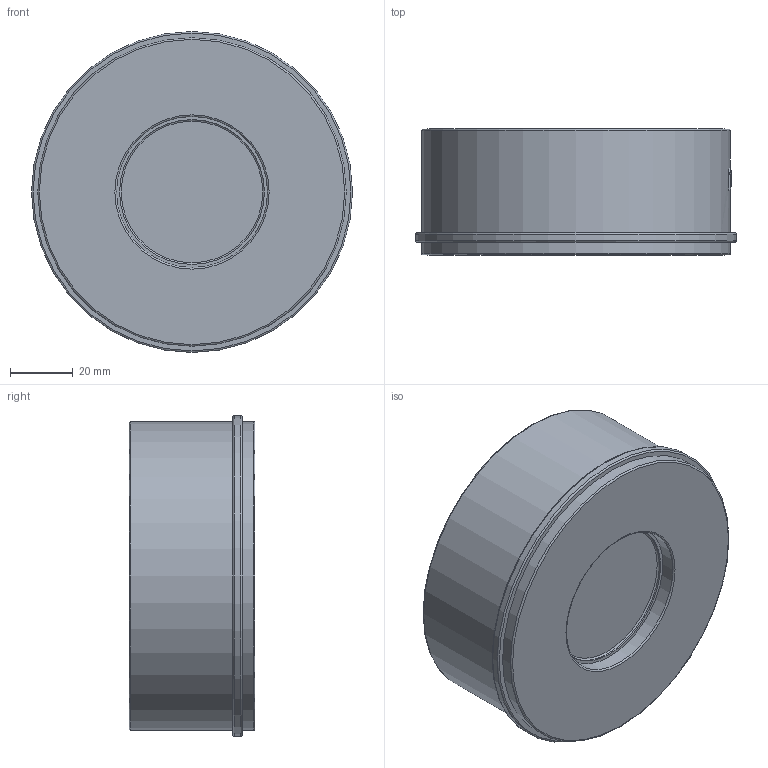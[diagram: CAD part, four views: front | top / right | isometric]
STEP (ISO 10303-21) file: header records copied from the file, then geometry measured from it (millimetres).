
FILE_DESCRIPTION(('STEP AP242'), '1');
FILE_NAME('VCS3232-Fb Êëàïàí îáðàòíûé ïðóæèííûé DN.ru Äó50 Ðó40', '', ('UNSPECIFIED'), ('UNSPECIFIED'), 'C3D Converter', 'C3D Toolkit', '');
FILE_SCHEMA(('AP242_MANAGED_MODEL_BASED_3D_ENGINEERING_MIM_LF { 1 0 10303 442 1 1 4 }'));
Length unit declared in the file: millimetre
Products named in the file (1): VCS3232-Fb
Bounding box: 102 x 40 x 102 mm (x, y, z)
Volume: 92473 mm3; surface area: 55698.7 mm2
Topology: 1 solids, 1 shells, 137 faces, 363 edges, 244 vertices
Faces by surface type: plane 53, extrusion 40, cylinder 29, torus 10, bspline 3, cone 2
Full cylindrical faces by diameter (mm): 10 x2, 22 x2, 46 x1, 48 x1, 56 x1, 57 x1, 78 x1, 92 x1, 98 x2, 102 x1
Entity records: 9915 total; most frequent: CARTESIAN_POINT 6660, ORIENTED_EDGE 670, DIRECTION 545, EDGE_CURVE 335, VERTEX_POINT 244, AXIS2_PLACEMENT_3D 199, EDGE_LOOP 189, FACE_BOUND 168
